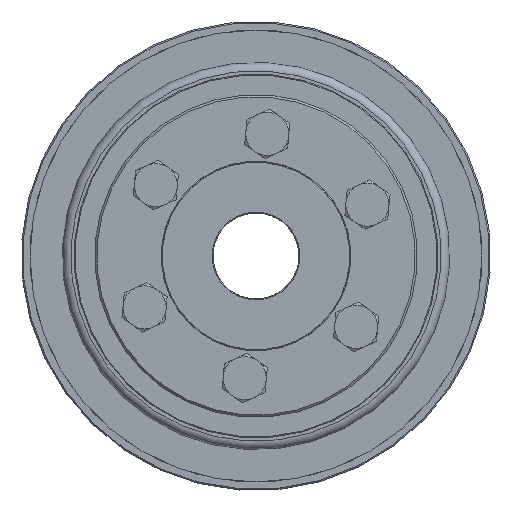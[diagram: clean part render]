
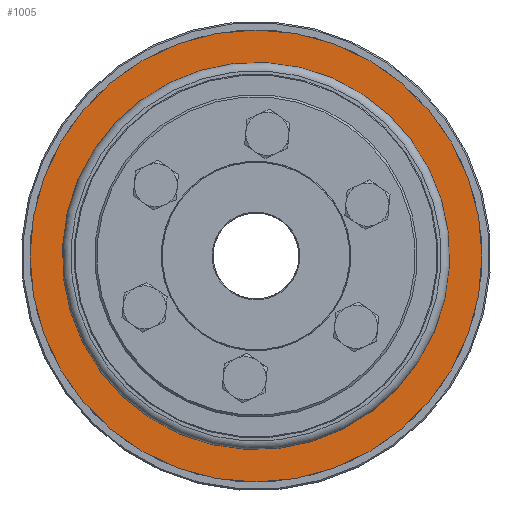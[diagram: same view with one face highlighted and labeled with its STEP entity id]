
A CAD part, left-side view. The second image highlights one B-rep face of the part: STEP entity #1005.
In plain terms, the highlighted planar face has unit normal (-1, 0, 0).
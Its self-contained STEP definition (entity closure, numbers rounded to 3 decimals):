
#1005 = ADVANCED_FACE( '', ( #2018, #2019 ), #2020, .T. );
#2018 = FACE_OUTER_BOUND( '', #3065, .T. );
#2019 = FACE_BOUND( '', #3066, .T. );
#2020 = PLANE( '', #3067 );
#3065 = EDGE_LOOP( '', ( #4486 ) );
#3066 = EDGE_LOOP( '', ( #4487 ) );
#3067 = AXIS2_PLACEMENT_3D( '', #4488, #4489, #4490 );
#4486 = ORIENTED_EDGE( '', *, *, #5049, .T. );
#4487 = ORIENTED_EDGE( '', *, *, #5311, .F. );
#4488 = CARTESIAN_POINT( '', ( 0., 0., 32.5 ) );
#4489 = DIRECTION( '', ( -1., 0., 0. ) );
#4490 = DIRECTION( '', ( 0., 0., 1. ) );
#5049 = EDGE_CURVE( '', #5676, #5676, #5677, .T. );
#5311 = EDGE_CURVE( '', #6091, #6091, #6092, .T. );
#5676 = VERTEX_POINT( '', #6704 );
#5677 = CIRCLE( '', #6705, 52.5 );
#6091 = VERTEX_POINT( '', #7381 );
#6092 = CIRCLE( '', #7382, 32.5 );
#6704 = CARTESIAN_POINT( '', ( 0., 0., 52.5 ) );
#6705 = AXIS2_PLACEMENT_3D( '', #7875, #7876, #7877 );
#7381 = CARTESIAN_POINT( '', ( 0., 0., 32.5 ) );
#7382 = AXIS2_PLACEMENT_3D( '', #8275, #8276, #8277 );
#7875 = CARTESIAN_POINT( '', ( 0., 0., 0. ) );
#7876 = DIRECTION( '', ( -1., 0., 0. ) );
#7877 = DIRECTION( '', ( 0., 0., 1. ) );
#8275 = CARTESIAN_POINT( '', ( 0., 0., 0. ) );
#8276 = DIRECTION( '', ( -1., 0., 0. ) );
#8277 = DIRECTION( '', ( 0., 0., 1. ) );
